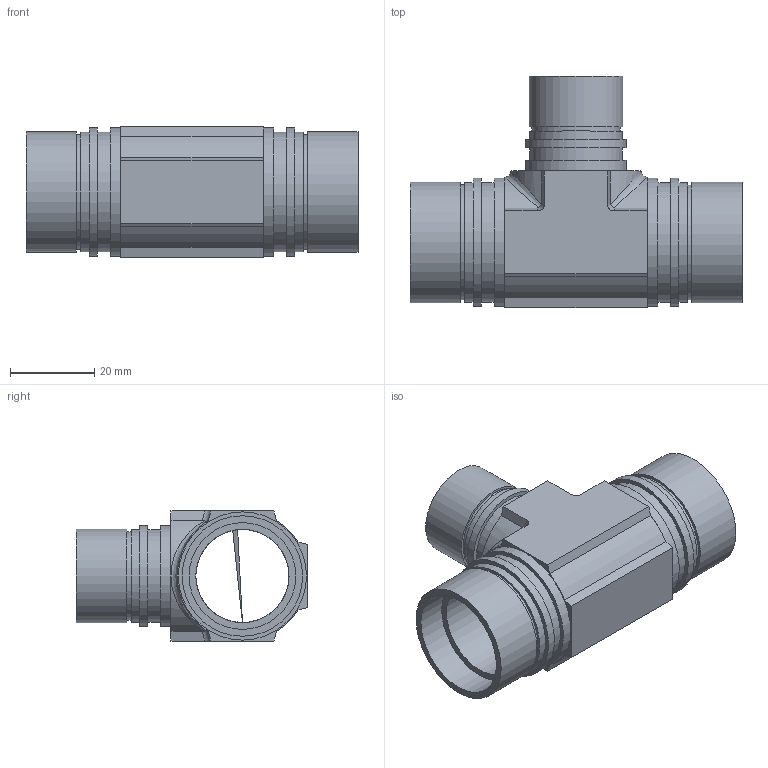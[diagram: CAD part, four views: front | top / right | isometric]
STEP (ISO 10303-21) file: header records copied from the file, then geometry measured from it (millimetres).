
FILE_DESCRIPTION (( 'STEP AP203' ), '1' );
FILE_NAME ('70-25.4RUBT19.05-P.STEP', '2013-09-05T04:09:44', ( '' ), ( '' ), 'SwSTEP 2.0', 'SolidWorks 2012', '' );
FILE_SCHEMA (( 'CONFIG_CONTROL_DESIGN' ));
Length unit declared in the file: millimetre
Products named in the file (2): 70-25.4RUBT19.05-P; Part2^70-25.4RUBT19.05-P
Assembly tree (1 placements, depth 2):
  70-25.4RUBT19.05-P
    Part2^70-25.4RUBT19.05-P
Bounding box: 79 x 55 x 31 mm (x, y, z)
Volume: 28112.4 mm3; surface area: 18400.4 mm2
Topology: 1 solids, 1 shells, 84 faces, 175 edges, 116 vertices
Faces by surface type: plane 42, cylinder 40, bspline 2
Full cylindrical faces by diameter (mm): 15.9 x1, 19.05 x1, 21 x1, 22 x2, 22.15 x2, 22.2 x3, 24 x2, 25.4 x2, 27.35 x2, 28.5 x4, 28.65 x2, 30.5 x4
Entity records: 2422 total; most frequent: CARTESIAN_POINT 554, DIRECTION 354, ORIENTED_EDGE 290, AXIS2_PLACEMENT_3D 149, EDGE_CURVE 145, EDGE_LOOP 138, VERTEX_POINT 113, FACE_OUTER_BOUND 110
